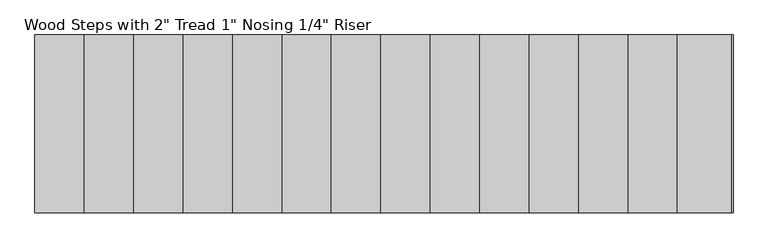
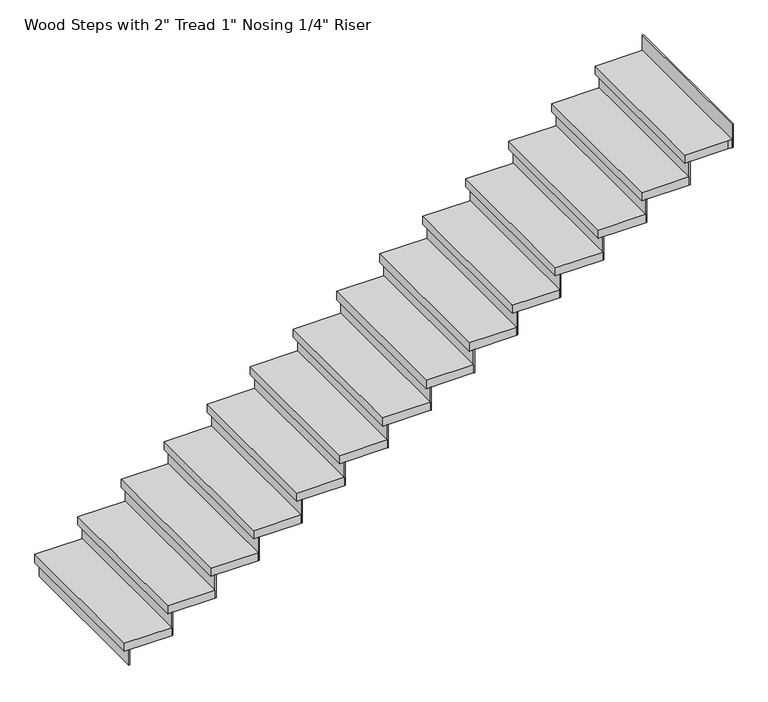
"""IFC4 building model written with IfcOpenShell, lengths in millimetres: stair flight geometry."""

from ifc_helpers import new_model, si_unit, frame, origin, origin_with_axes, place, context, project, spatial, polyline, outline, extrude, source, transform, mapped, element, save


def stair_flight_258a6cbc(model_context):
    return source(origin(), model_context, "Body", "SweptSolid", [
        extrude(outline(polyline([(-23977.2405791, 6523.6177722), (-23983.5905791, 6523.6177722), (-23983.5905791, 7438.0177722), (-23977.2405791, 7438.0177722), (-23977.2405791, 6523.6177722)])), origin_with_axes(), (0.0, 0.0, 1.0), 94.3428571),
        extrude(outline(polyline([(-23729.5905791, 7438.0177722), (-23729.5905791, 6523.6177722), (-24008.9905791, 6523.6177722), (-24008.9905791, 7438.0177722), (-23729.5905791, 7438.0177722)])), frame((0.0, 0.0, 94.3428571), z_axis=(0.0, 0.0, 1.0), x_axis=(1.0, 0.0, 0.0)), (0.0, 0.0, 1.0), 50.8),
        extrude(outline(polyline([(-23723.2405791, 6523.6177722), (-23729.5905791, 6523.6177722), (-23729.5905791, 7438.0177722), (-23723.2405791, 7438.0177722), (-23723.2405791, 6523.6177722)])), frame((0.0, 0.0, 94.3428571), z_axis=(0.0, 0.0, 1.0), x_axis=(1.0, 0.0, 0.0)), (0.0, 0.0, 1.0), 145.1428571),
        extrude(outline(polyline([(-23475.5905791, 7438.0177722), (-23475.5905791, 6523.6177722), (-23754.9905791, 6523.6177722), (-23754.9905791, 7438.0177722), (-23475.5905791, 7438.0177722)])), frame((0.0, 0.0, 239.4857143), z_axis=(0.0, 0.0, 1.0), x_axis=(1.0, 0.0, 0.0)), (0.0, 0.0, 1.0), 50.8),
        extrude(outline(polyline([(-23469.2405791, 6523.6177722), (-23475.5905791, 6523.6177722), (-23475.5905791, 7438.0177722), (-23469.2405791, 7438.0177722), (-23469.2405791, 6523.6177722)])), frame((0.0, 0.0, 239.4857143), z_axis=(0.0, 0.0, 1.0), x_axis=(1.0, 0.0, 0.0)), (0.0, 0.0, 1.0), 145.1428571),
        extrude(outline(polyline([(-23221.5905791, 7438.0177722), (-23221.5905791, 6523.6177722), (-23500.9905791, 6523.6177722), (-23500.9905791, 7438.0177722), (-23221.5905791, 7438.0177722)])), frame((0.0, 0.0, 384.6285714), z_axis=(0.0, 0.0, 1.0), x_axis=(1.0, 0.0, 0.0)), (0.0, 0.0, 1.0), 50.8),
        extrude(outline(polyline([(-23215.2405791, 6523.6177722), (-23221.5905791, 6523.6177722), (-23221.5905791, 7438.0177722), (-23215.2405791, 7438.0177722), (-23215.2405791, 6523.6177722)])), frame((0.0, 0.0, 384.6285714), z_axis=(0.0, 0.0, 1.0), x_axis=(1.0, 0.0, 0.0)), (0.0, 0.0, 1.0), 145.1428571),
        extrude(outline(polyline([(-22967.5905791, 7438.0177722), (-22967.5905791, 6523.6177722), (-23246.9905791, 6523.6177722), (-23246.9905791, 7438.0177722), (-22967.5905791, 7438.0177722)])), frame((0.0, 0.0, 529.7714286), z_axis=(0.0, 0.0, 1.0), x_axis=(1.0, 0.0, 0.0)), (0.0, 0.0, 1.0), 50.8),
        extrude(outline(polyline([(-22961.2405791, 6523.6177722), (-22967.5905791, 6523.6177722), (-22967.5905791, 7438.0177722), (-22961.2405791, 7438.0177722), (-22961.2405791, 6523.6177722)])), frame((0.0, 0.0, 529.7714286), z_axis=(0.0, 0.0, 1.0), x_axis=(1.0, 0.0, 0.0)), (0.0, 0.0, 1.0), 145.1428571),
        extrude(outline(polyline([(-22713.5905791, 7438.0177722), (-22713.5905791, 6523.6177722), (-22992.9905791, 6523.6177722), (-22992.9905791, 7438.0177722), (-22713.5905791, 7438.0177722)])), frame((0.0, 0.0, 674.9142857), z_axis=(0.0, 0.0, 1.0), x_axis=(1.0, 0.0, 0.0)), (0.0, 0.0, 1.0), 50.8),
        extrude(outline(polyline([(-22707.2405791, 6523.6177722), (-22713.5905791, 6523.6177722), (-22713.5905791, 7438.0177722), (-22707.2405791, 7438.0177722), (-22707.2405791, 6523.6177722)])), frame((0.0, 0.0, 674.9142857), z_axis=(0.0, 0.0, 1.0), x_axis=(1.0, 0.0, 0.0)), (0.0, 0.0, 1.0), 145.1428571),
        extrude(outline(polyline([(-22459.5905791, 7438.0177722), (-22459.5905791, 6523.6177722), (-22738.9905791, 6523.6177722), (-22738.9905791, 7438.0177722), (-22459.5905791, 7438.0177722)])), frame((0.0, 0.0, 820.0571429), z_axis=(0.0, 0.0, 1.0), x_axis=(1.0, 0.0, 0.0)), (0.0, 0.0, 1.0), 50.8),
        extrude(outline(polyline([(-22453.2405791, 6523.6177722), (-22459.5905791, 6523.6177722), (-22459.5905791, 7438.0177722), (-22453.2405791, 7438.0177722), (-22453.2405791, 6523.6177722)])), frame((0.0, 0.0, 820.0571429), z_axis=(0.0, 0.0, 1.0), x_axis=(1.0, 0.0, 0.0)), (0.0, 0.0, 1.0), 145.1428571),
        extrude(outline(polyline([(-22205.5905791, 7438.0177722), (-22205.5905791, 6523.6177722), (-22484.9905791, 6523.6177722), (-22484.9905791, 7438.0177722), (-22205.5905791, 7438.0177722)])), frame((0.0, 0.0, 965.2), z_axis=(0.0, 0.0, 1.0), x_axis=(1.0, 0.0, 0.0)), (0.0, 0.0, 1.0), 50.8),
        extrude(outline(polyline([(-22199.2405791, 6523.6177722), (-22205.5905791, 6523.6177722), (-22205.5905791, 7438.0177722), (-22199.2405791, 7438.0177722), (-22199.2405791, 6523.6177722)])), frame((0.0, 0.0, 965.2), z_axis=(0.0, 0.0, 1.0), x_axis=(1.0, 0.0, 0.0)), (0.0, 0.0, 1.0), 145.1428571),
        extrude(outline(polyline([(-21951.5905791, 7438.0177722), (-21951.5905791, 6523.6177722), (-22230.9905791, 6523.6177722), (-22230.9905791, 7438.0177722), (-21951.5905791, 7438.0177722)])), frame((0.0, 0.0, 1110.3428571), z_axis=(0.0, 0.0, 1.0), x_axis=(1.0, 0.0, 0.0)), (0.0, 0.0, 1.0), 50.8),
        extrude(outline(polyline([(-21945.2405791, 6523.6177722), (-21951.5905791, 6523.6177722), (-21951.5905791, 7438.0177722), (-21945.2405791, 7438.0177722), (-21945.2405791, 6523.6177722)])), frame((0.0, 0.0, 1110.3428571), z_axis=(0.0, 0.0, 1.0), x_axis=(1.0, 0.0, 0.0)), (0.0, 0.0, 1.0), 145.1428571),
        extrude(outline(polyline([(-21697.5905791, 7438.0177722), (-21697.5905791, 6523.6177722), (-21976.9905791, 6523.6177722), (-21976.9905791, 7438.0177722), (-21697.5905791, 7438.0177722)])), frame((0.0, 0.0, 1255.4857143), z_axis=(0.0, 0.0, 1.0), x_axis=(1.0, 0.0, 0.0)), (0.0, 0.0, 1.0), 50.8),
        extrude(outline(polyline([(-21691.2405791, 6523.6177722), (-21697.5905791, 6523.6177722), (-21697.5905791, 7438.0177722), (-21691.2405791, 7438.0177722), (-21691.2405791, 6523.6177722)])), frame((0.0, 0.0, 1255.4857143), z_axis=(0.0, 0.0, 1.0), x_axis=(1.0, 0.0, 0.0)), (0.0, 0.0, 1.0), 145.1428571),
        extrude(outline(polyline([(-21443.5905791, 7438.0177722), (-21443.5905791, 6523.6177722), (-21722.9905791, 6523.6177722), (-21722.9905791, 7438.0177722), (-21443.5905791, 7438.0177722)])), frame((0.0, 0.0, 1400.6285714), z_axis=(0.0, 0.0, 1.0), x_axis=(1.0, 0.0, 0.0)), (0.0, 0.0, 1.0), 50.8),
        extrude(outline(polyline([(-21437.2405791, 6523.6177722), (-21443.5905791, 6523.6177722), (-21443.5905791, 7438.0177722), (-21437.2405791, 7438.0177722), (-21437.2405791, 6523.6177722)])), frame((0.0, 0.0, 1400.6285714), z_axis=(0.0, 0.0, 1.0), x_axis=(1.0, 0.0, 0.0)), (0.0, 0.0, 1.0), 145.1428571),
        extrude(outline(polyline([(-21189.5905791, 7438.0177722), (-21189.5905791, 6523.6177722), (-21468.9905791, 6523.6177722), (-21468.9905791, 7438.0177722), (-21189.5905791, 7438.0177722)])), frame((0.0, 0.0, 1545.7714286), z_axis=(0.0, 0.0, 1.0), x_axis=(1.0, 0.0, 0.0)), (0.0, 0.0, 1.0), 50.8),
        extrude(outline(polyline([(-21183.2405791, 6523.6177722), (-21189.5905791, 6523.6177722), (-21189.5905791, 7438.0177722), (-21183.2405791, 7438.0177722), (-21183.2405791, 6523.6177722)])), frame((0.0, 0.0, 1545.7714286), z_axis=(0.0, 0.0, 1.0), x_axis=(1.0, 0.0, 0.0)), (0.0, 0.0, 1.0), 145.1428571),
        extrude(outline(polyline([(-20935.5905791, 7438.0177722), (-20935.5905791, 6523.6177722), (-21214.9905791, 6523.6177722), (-21214.9905791, 7438.0177722), (-20935.5905791, 7438.0177722)])), frame((0.0, 0.0, 1690.9142857), z_axis=(0.0, 0.0, 1.0), x_axis=(1.0, 0.0, 0.0)), (0.0, 0.0, 1.0), 50.8),
        extrude(outline(polyline([(-20929.2405791, 6523.6177722), (-20935.5905791, 6523.6177722), (-20935.5905791, 7438.0177722), (-20929.2405791, 7438.0177722), (-20929.2405791, 6523.6177722)])), frame((0.0, 0.0, 1690.9142857), z_axis=(0.0, 0.0, 1.0), x_axis=(1.0, 0.0, 0.0)), (0.0, 0.0, 1.0), 145.1428571),
        extrude(outline(polyline([(-20681.5905791, 7438.0177722), (-20681.5905791, 6523.6177722), (-20960.9905791, 6523.6177722), (-20960.9905791, 7438.0177722), (-20681.5905791, 7438.0177722)])), frame((0.0, 0.0, 1836.0571429), z_axis=(0.0, 0.0, 1.0), x_axis=(1.0, 0.0, 0.0)), (0.0, 0.0, 1.0), 50.8),
        extrude(outline(polyline([(-20421.2405791, 6523.6177722), (-20427.5905791, 6523.6177722), (-20427.5905791, 7438.0177722), (-20421.2405791, 7438.0177722), (-20421.2405791, 6523.6177722)])), frame((0.0, 0.0, 1981.2), z_axis=(0.0, 0.0, 1.0), x_axis=(1.0, 0.0, 0.0)), (0.0, 0.0, 1.0), 145.1428571),
        extrude(outline(polyline([(-20675.2405791, 6523.6177722), (-20681.5905791, 6523.6177722), (-20681.5905791, 7438.0177722), (-20675.2405791, 7438.0177722), (-20675.2405791, 6523.6177722)])), frame((0.0, 0.0, 1836.0571429), z_axis=(0.0, 0.0, 1.0), x_axis=(1.0, 0.0, 0.0)), (0.0, 0.0, 1.0), 145.1428571),
        extrude(outline(polyline([(-20427.5905791, 7438.0177722), (-20427.5905791, 6523.6177722), (-20452.9905791, 6523.6177722), (-20706.9905791, 6523.6177722), (-20706.9905791, 7438.0177722), (-20452.9905791, 7438.0177722), (-20427.5905791, 7438.0177722)])), frame((0.0, 0.0, 1981.2), z_axis=(0.0, 0.0, 1.0), x_axis=(1.0, 0.0, 0.0)), (0.0, 0.0, 1.0), 50.8),
    ])


if __name__ == "__main__":
    model = new_model("IFC4")
    model_context = context("Model", 3, world=origin())
    ifc_project = project(units=[si_unit("LENGTHUNIT", "METRE", prefix="MILLI")], contexts=[model_context])
    site = spatial("IfcSite", under=ifc_project)
    building = spatial("IfcBuilding", under=site)
    placement = place(None, origin())
    stair_flight_shape = stair_flight_258a6cbc(model_context)
    element("IfcStairFlight", 1, ObjectType="Wood Steps with 2\" Tread 1\" Nosing 1/4\" Riser", at=placement, inside=building, context=model_context, shape_type="MappedRepresentation", body=[
        mapped(stair_flight_shape, transform((0.0, 0.0, 0.0), x_axis=(1.0, 0.0, 0.0), y_axis=(0.0, 1.0, 0.0), z_axis=(0.0, 0.0, 1.0))),
    ])
    save(model, "model.ifc")
